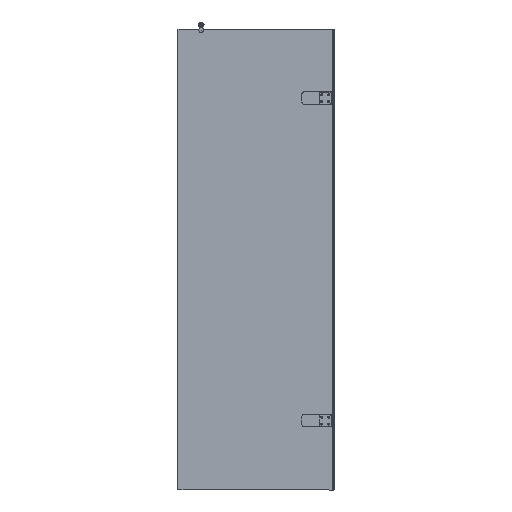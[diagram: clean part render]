
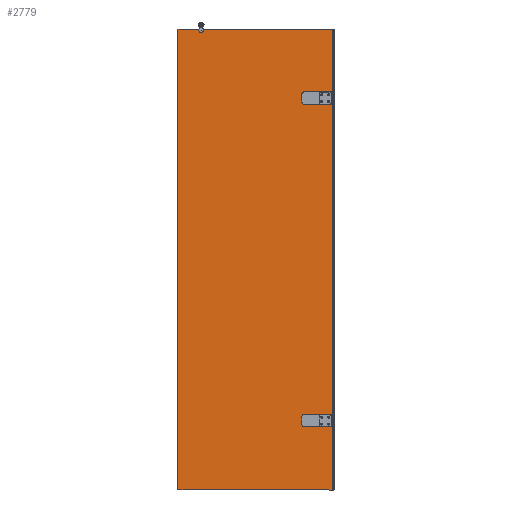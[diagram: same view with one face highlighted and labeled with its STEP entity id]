
A CAD part, front view. The second image highlights one B-rep face of the part: STEP entity #2779.
In plain terms, the highlighted planar face has unit normal (0, -1, 0).
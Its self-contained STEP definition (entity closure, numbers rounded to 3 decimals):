
#98=LINE($,#4207,#326);
#101=LINE($,#4219,#329);
#104=LINE($,#4224,#332);
#107=LINE($,#4228,#335);
#170=LINE($,#4424,#398);
#173=LINE($,#4436,#401);
#176=LINE($,#4441,#404);
#179=LINE($,#4445,#407);
#196=LINE($,#4501,#424);
#197=LINE($,#4503,#425);
#198=LINE($,#4505,#426);
#199=LINE($,#4507,#427);
#200=LINE($,#4509,#428);
#201=LINE($,#4511,#429);
#202=LINE($,#4513,#430);
#203=LINE($,#4515,#431);
#204=LINE($,#4517,#432);
#205=LINE($,#4518,#433);
#326=VECTOR($,#3363,40.);
#329=VECTOR($,#3374,40.);
#332=VECTOR($,#3379,34.);
#335=VECTOR($,#3384,52.);
#398=VECTOR($,#3581,40.);
#401=VECTOR($,#3592,40.);
#404=VECTOR($,#3597,34.);
#407=VECTOR($,#3602,52.);
#424=VECTOR($,#3659,91.07);
#425=VECTOR($,#3660,2001.);
#426=VECTOR($,#3661,676.);
#427=VECTOR($,#3662,1.);
#428=VECTOR($,#3663,2000.);
#429=VECTOR($,#3664,2.443);
#430=VECTOR($,#3665,2000.);
#431=VECTOR($,#3666,2.557);
#432=VECTOR($,#3667,2000.);
#433=VECTOR($,#3668,562.07);
#584=FACE_BOUND($,#896,.T.);
#585=FACE_BOUND($,#897,.T.);
#586=FACE_BOUND($,#898,.T.);
#896=EDGE_LOOP($,(#2171,#2172,#2173,#2174,#2175,#2176));
#897=EDGE_LOOP($,(#2177,#2178,#2179,#2180,#2181,#2182));
#898=EDGE_LOOP($,(#2183,#2184,#2185,#2186,#2187,#2188,#2189,#2190,#2191,
#2192,#2193));
#1027=CIRCLE($,#2931,9.);
#1029=CIRCLE($,#2935,9.);
#1059=CIRCLE($,#3004,9.);
#1061=CIRCLE($,#3008,9.);
#1069=CIRCLE($,#3029,10.);
#1181=VERTEX_POINT($,#4197);
#1182=VERTEX_POINT($,#4199);
#1184=VERTEX_POINT($,#4205);
#1187=VERTEX_POINT($,#4212);
#1188=VERTEX_POINT($,#4214);
#1189=VERTEX_POINT($,#4218);
#1253=VERTEX_POINT($,#4414);
#1254=VERTEX_POINT($,#4416);
#1256=VERTEX_POINT($,#4422);
#1259=VERTEX_POINT($,#4429);
#1260=VERTEX_POINT($,#4431);
#1261=VERTEX_POINT($,#4435);
#1279=VERTEX_POINT($,#4493);
#1280=VERTEX_POINT($,#4495);
#1281=VERTEX_POINT($,#4500);
#1282=VERTEX_POINT($,#4502);
#1283=VERTEX_POINT($,#4504);
#1284=VERTEX_POINT($,#4506);
#1285=VERTEX_POINT($,#4508);
#1286=VERTEX_POINT($,#4510);
#1287=VERTEX_POINT($,#4512);
#1288=VERTEX_POINT($,#4514);
#1289=VERTEX_POINT($,#4516);
#1462=EDGE_CURVE($,#1181,#1182,#1027,.T.);
#1466=EDGE_CURVE($,#1184,#1181,#98,.T.);
#1469=EDGE_CURVE($,#1187,#1188,#1029,.T.);
#1471=EDGE_CURVE($,#1188,#1189,#101,.T.);
#1474=EDGE_CURVE($,#1182,#1187,#104,.T.);
#1477=EDGE_CURVE($,#1189,#1184,#107,.T.);
#1566=EDGE_CURVE($,#1253,#1254,#1059,.T.);
#1570=EDGE_CURVE($,#1256,#1253,#170,.T.);
#1573=EDGE_CURVE($,#1259,#1260,#1061,.T.);
#1575=EDGE_CURVE($,#1260,#1261,#173,.T.);
#1578=EDGE_CURVE($,#1254,#1259,#176,.T.);
#1581=EDGE_CURVE($,#1261,#1256,#179,.T.);
#1604=EDGE_CURVE($,#1279,#1280,#1069,.T.);
#1606=EDGE_CURVE($,#1281,#1279,#196,.T.);
#1607=EDGE_CURVE($,#1282,#1281,#197,.T.);
#1608=EDGE_CURVE($,#1282,#1283,#198,.T.);
#1609=EDGE_CURVE($,#1283,#1284,#199,.T.);
#1610=EDGE_CURVE($,#1284,#1285,#200,.T.);
#1611=EDGE_CURVE($,#1286,#1285,#201,.T.);
#1612=EDGE_CURVE($,#1287,#1286,#202,.T.);
#1613=EDGE_CURVE($,#1288,#1287,#203,.T.);
#1614=EDGE_CURVE($,#1289,#1288,#204,.T.);
#1615=EDGE_CURVE($,#1280,#1289,#205,.T.);
#2171=ORIENTED_EDGE($,*,*,#1469,.F.);
#2172=ORIENTED_EDGE($,*,*,#1474,.F.);
#2173=ORIENTED_EDGE($,*,*,#1462,.F.);
#2174=ORIENTED_EDGE($,*,*,#1466,.F.);
#2175=ORIENTED_EDGE($,*,*,#1477,.F.);
#2176=ORIENTED_EDGE($,*,*,#1471,.F.);
#2177=ORIENTED_EDGE($,*,*,#1573,.F.);
#2178=ORIENTED_EDGE($,*,*,#1578,.F.);
#2179=ORIENTED_EDGE($,*,*,#1566,.F.);
#2180=ORIENTED_EDGE($,*,*,#1570,.F.);
#2181=ORIENTED_EDGE($,*,*,#1581,.F.);
#2182=ORIENTED_EDGE($,*,*,#1575,.F.);
#2183=ORIENTED_EDGE($,*,*,#1604,.F.);
#2184=ORIENTED_EDGE($,*,*,#1606,.F.);
#2185=ORIENTED_EDGE($,*,*,#1607,.F.);
#2186=ORIENTED_EDGE($,*,*,#1608,.T.);
#2187=ORIENTED_EDGE($,*,*,#1609,.T.);
#2188=ORIENTED_EDGE($,*,*,#1610,.T.);
#2189=ORIENTED_EDGE($,*,*,#1611,.F.);
#2190=ORIENTED_EDGE($,*,*,#1612,.F.);
#2191=ORIENTED_EDGE($,*,*,#1613,.F.);
#2192=ORIENTED_EDGE($,*,*,#1614,.F.);
#2193=ORIENTED_EDGE($,*,*,#1615,.F.);
#2498=PLANE($,#3031);
#2779=ADVANCED_FACE($,(#584,#585,#586),#2498,.F.);
#2931=AXIS2_PLACEMENT_3D($,#4200,#3356,#3357);
#2935=AXIS2_PLACEMENT_3D($,#4215,#3369,#3370);
#3004=AXIS2_PLACEMENT_3D($,#4417,#3574,#3575);
#3008=AXIS2_PLACEMENT_3D($,#4432,#3587,#3588);
#3029=AXIS2_PLACEMENT_3D($,#4496,#3652,#3653);
#3031=AXIS2_PLACEMENT_3D($,#4499,#3657,#3658);
#3356=DIRECTION('center_axis',(0.,-1.,0.));
#3357=DIRECTION('ref_axis',(-0.707,0.,0.707));
#3363=DIRECTION($,(-1.,0.,0.));
#3369=DIRECTION('center_axis',(0.,-1.,0.));
#3370=DIRECTION('ref_axis',(-0.707,0.,-0.707));
#3374=DIRECTION($,(1.,0.,0.));
#3379=DIRECTION($,(0.,0.,-1.));
#3384=DIRECTION($,(0.,0.,1.));
#3574=DIRECTION('center_axis',(0.,-1.,0.));
#3575=DIRECTION('ref_axis',(-0.707,0.,0.707));
#3581=DIRECTION($,(-1.,0.,0.));
#3587=DIRECTION('center_axis',(0.,-1.,0.));
#3588=DIRECTION('ref_axis',(-0.707,0.,-0.707));
#3592=DIRECTION($,(1.,0.,0.));
#3597=DIRECTION($,(0.,0.,-1.));
#3602=DIRECTION($,(0.,0.,1.));
#3652=DIRECTION('center_axis',(0.,-1.,0.));
#3653=DIRECTION('ref_axis',(0.,0.,
-1.));
#3657=DIRECTION('center_axis',(0.,1.,0.));
#3658=DIRECTION('ref_axis',(0.,0.,1.));
#3659=DIRECTION($,(1.,0.,0.));
#3660=DIRECTION($,(0.,0.,1.));
#3661=DIRECTION($,(1.,0.,0.));
#3662=DIRECTION($,(0.,0.,1.));
#3663=DIRECTION($,(0.,0.,1.));
#3664=DIRECTION($,(1.,0.,0.));
#3665=DIRECTION($,(0.,0.,1.));
#3666=DIRECTION($,(1.,0.,0.));
#3667=DIRECTION($,(0.,0.,-1.));
#3668=DIRECTION($,(1.,0.,0.));
#4197=CARTESIAN_POINT('',(1728.305,-44.044,1211.944));
#4199=CARTESIAN_POINT('',(1719.305,-44.044,1202.944));
#4200=CARTESIAN_POINT('Origin',(1728.305,-44.044,1202.944));
#4205=CARTESIAN_POINT('',(1768.305,-44.044,1211.944));
#4207=CARTESIAN_POINT($,(1474.305,-44.044,1211.944));
#4212=CARTESIAN_POINT('',(1719.305,-44.044,1168.944));
#4214=CARTESIAN_POINT('',(1728.305,-44.044,1159.944));
#4215=CARTESIAN_POINT('Origin',(1728.305,-44.044,1168.944));
#4218=CARTESIAN_POINT('',(1768.305,-44.044,1159.944));
#4219=CARTESIAN_POINT($,(1462.805,-44.044,1159.944));
#4224=CARTESIAN_POINT($,(1719.305,-44.044,322.444));
#4228=CARTESIAN_POINT($,(1768.305,-44.044,322.444));
#4414=CARTESIAN_POINT('',(1728.305,-44.044,-188.056));
#4416=CARTESIAN_POINT('',(1719.305,-44.044,-197.056));
#4417=CARTESIAN_POINT('Origin',(1728.305,-44.044,-197.056));
#4422=CARTESIAN_POINT('',(1768.305,-44.044,-188.056));
#4424=CARTESIAN_POINT($,(1474.305,-44.044,-188.056));
#4429=CARTESIAN_POINT('',(1719.305,-44.044,-231.056));
#4431=CARTESIAN_POINT('',(1728.305,-44.044,-240.056));
#4432=CARTESIAN_POINT('Origin',(1728.305,-44.044,-231.056));
#4435=CARTESIAN_POINT('',(1768.305,-44.044,-240.056));
#4436=CARTESIAN_POINT($,(1462.805,-44.044,-240.056));
#4441=CARTESIAN_POINT($,(1719.305,-44.044,-377.556));
#4445=CARTESIAN_POINT($,(1768.305,-44.044,-377.556));
#4493=CARTESIAN_POINT('',(1271.374,-44.044,1485.944));
#4495=CARTESIAN_POINT('',(1289.235,-44.044,1485.944));
#4496=CARTESIAN_POINT('Origin',(1280.305,-44.044,1481.444));
#4499=CARTESIAN_POINT('Origin',(1180.305,-44.044,-515.056));
#4500=CARTESIAN_POINT('',(1180.305,-44.044,1485.944));
#4501=CARTESIAN_POINT($,(1180.305,-44.044,1485.944));
#4502=CARTESIAN_POINT('',(1180.305,-44.044,-515.056));
#4503=CARTESIAN_POINT($,(1180.305,-44.044,-515.056));
#4504=CARTESIAN_POINT('',(1856.305,-44.044,-515.056));
#4505=CARTESIAN_POINT($,(1180.305,-44.044,-515.056));
#4506=CARTESIAN_POINT('',(1856.305,-44.044,-514.056));
#4507=CARTESIAN_POINT($,(1856.305,-44.044,-515.056));
#4508=CARTESIAN_POINT('',(1856.305,-44.044,1485.944));
#4509=CARTESIAN_POINT($,(1856.305,-44.044,-515.056));
#4510=CARTESIAN_POINT('',(1853.861,-44.044,1485.944));
#4511=CARTESIAN_POINT($,(1180.305,-44.044,1485.944));
#4512=CARTESIAN_POINT('',(1853.861,-44.044,-514.056));
#4513=CARTESIAN_POINT($,(1853.861,-44.044,485.444));
#4514=CARTESIAN_POINT('',(1851.305,-44.044,-514.056));
#4515=CARTESIAN_POINT($,(1518.705,-44.044,-514.056));
#4516=CARTESIAN_POINT('',(1851.305,-44.044,1485.944));
#4517=CARTESIAN_POINT($,(1851.305,-44.044,485.444));
#4518=CARTESIAN_POINT($,(1180.305,-44.044,1485.944));
